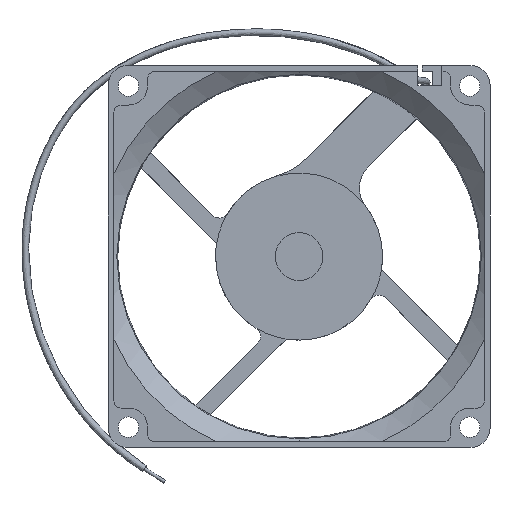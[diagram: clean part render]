
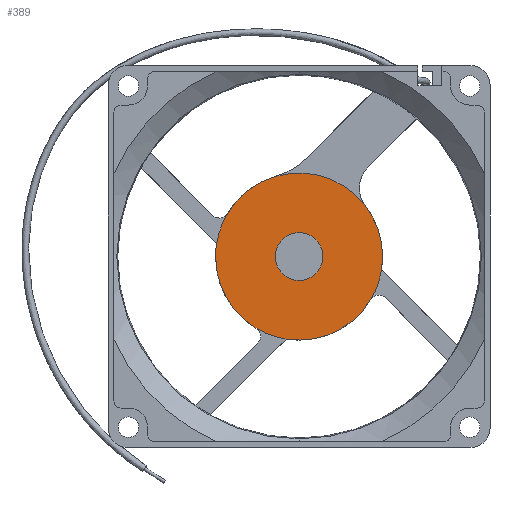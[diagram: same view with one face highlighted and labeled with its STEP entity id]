
A CAD part, front view. The second image highlights one B-rep face of the part: STEP entity #389.
In plain terms, the highlighted planar face has unit normal (0, -1, 0).
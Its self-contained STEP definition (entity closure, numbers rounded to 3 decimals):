
#94 = DIRECTION ( 'NONE',  ( 0., 0., -1. ) ) ;
#133 = ORIENTED_EDGE ( 'NONE', *, *, #10852, .T. ) ;
#229 = DIRECTION ( 'NONE',  ( 0., 1., 0. ) ) ;
#372 = CARTESIAN_POINT ( 'NONE',  ( 0., 21.2, -5. ) ) ;
#389 = ADVANCED_FACE ( 'NONE', ( #7597, #10057 ), #8031, .T. ) ;
#685 = EDGE_CURVE ( 'NONE', #10658, #7400, #1254, .T. ) ;
#914 = AXIS2_PLACEMENT_3D ( 'NONE', #2902, #9325, #3811 ) ;
#1029 = EDGE_CURVE ( 'NONE', #3860, #10677, #5431, .T. ) ;
#1131 = CARTESIAN_POINT ( 'NONE',  ( -4.888, 21.2, 16.803 ) ) ;
#1149 = AXIS2_PLACEMENT_3D ( 'NONE', #7103, #3460, #9894 ) ;
#1237 = CIRCLE ( 'NONE', #3075, 17.5 ) ;
#1254 = CIRCLE ( 'NONE', #914, 17.5 ) ;
#1712 = VERTEX_POINT ( 'NONE', #2326 ) ;
#1747 = VERTEX_POINT ( 'NONE', #2450 ) ;
#1751 = EDGE_CURVE ( 'NONE', #11955, #2664, #7567, .T. ) ;
#1814 = CARTESIAN_POINT ( 'NONE',  ( 0., 21.2, 0. ) ) ;
#1829 = CARTESIAN_POINT ( 'NONE',  ( 0., 21.2, 0. ) ) ;
#1830 = AXIS2_PLACEMENT_3D ( 'NONE', #2040, #8487, #2987 ) ;
#2040 = CARTESIAN_POINT ( 'NONE',  ( 0., 21.2, 0. ) ) ;
#2313 = ORIENTED_EDGE ( 'NONE', *, *, #10320, .T. ) ;
#2326 = CARTESIAN_POINT ( 'NONE',  ( -2.739, 21.2, -17.284 ) ) ;
#2388 = EDGE_CURVE ( 'NONE', #11955, #7400, #10589, .T. ) ;
#2450 = CARTESIAN_POINT ( 'NONE',  ( 14.985, 21.2, -9.039 ) ) ;
#2558 = ORIENTED_EDGE ( 'NONE', *, *, #9612, .T. ) ;
#2664 = VERTEX_POINT ( 'NONE', #10978 ) ;
#2706 = DIRECTION ( 'NONE',  ( 0., -1., 0. ) ) ;
#2767 = DIRECTION ( 'NONE',  ( 0., 0., -1. ) ) ;
#2776 = DIRECTION ( 'NONE',  ( 0., 0., 1. ) ) ;
#2902 = CARTESIAN_POINT ( 'NONE',  ( 0., 21.2, 0. ) ) ;
#2920 = CARTESIAN_POINT ( 'NONE',  ( 0., 21.2, 0. ) ) ;
#2987 = DIRECTION ( 'NONE',  ( 0., 0., -1. ) ) ;
#3028 = VERTEX_POINT ( 'NONE', #7176 ) ;
#3075 = AXIS2_PLACEMENT_3D ( 'NONE', #5761, #229, #6680 ) ;
#3280 = AXIS2_PLACEMENT_3D ( 'NONE', #1829, #8269, #2776 ) ;
#3460 = DIRECTION ( 'NONE',  ( 0., -1., 0. ) ) ;
#3586 = CIRCLE ( 'NONE', #11853, 17.5 ) ;
#3660 = DIRECTION ( 'NONE',  ( 0., -1., 0. ) ) ;
#3683 = ORIENTED_EDGE ( 'NONE', *, *, #685, .F. ) ;
#3811 = DIRECTION ( 'NONE',  ( -1., 0., 0. ) ) ;
#3834 = DIRECTION ( 'NONE',  ( -1., 0., 0. ) ) ;
#3860 = VERTEX_POINT ( 'NONE', #9572 ) ;
#4309 = CARTESIAN_POINT ( 'NONE',  ( -17.5, 21.2, 0. ) ) ;
#4565 = VERTEX_POINT ( 'NONE', #372 ) ;
#4604 = AXIS2_PLACEMENT_3D ( 'NONE', #11125, #5627, #94 ) ;
#4756 = CARTESIAN_POINT ( 'NONE',  ( 0., 21.2, 0. ) ) ;
#4783 = EDGE_CURVE ( 'NONE', #1747, #1712, #11029, .T. ) ;
#4844 = CARTESIAN_POINT ( 'NONE',  ( 13.86, 21.2, 10.685 ) ) ;
#5213 = CARTESIAN_POINT ( 'NONE',  ( 0., 21.2, 0. ) ) ;
#5431 = CIRCLE ( 'NONE', #10793, 17.5 ) ;
#5627 = DIRECTION ( 'NONE',  ( 0., 1., 0. ) ) ;
#5683 = DIRECTION ( 'NONE',  ( 0., 0., -1. ) ) ;
#5761 = CARTESIAN_POINT ( 'NONE',  ( 0., 21.2, 0. ) ) ;
#6144 = DIRECTION ( 'NONE',  ( 0., 0., 1. ) ) ;
#6680 = DIRECTION ( 'NONE',  ( -1., 0., 0. ) ) ;
#7017 = CIRCLE ( 'NONE', #10549, 17.5 ) ;
#7103 = CARTESIAN_POINT ( 'NONE',  ( -17.71, 21.2, 17.71 ) ) ;
#7176 = CARTESIAN_POINT ( 'NONE',  ( -17.284, 21.2, 2.739 ) ) ;
#7285 = CIRCLE ( 'NONE', #9645, 5. ) ;
#7400 = VERTEX_POINT ( 'NONE', #1131 ) ;
#7567 = CIRCLE ( 'NONE', #9404, 17.5 ) ;
#7597 = FACE_BOUND ( 'NONE', #8570, .T. ) ;
#7710 = AXIS2_PLACEMENT_3D ( 'NONE', #8212, #2706, #9126 ) ;
#7893 = ORIENTED_EDGE ( 'NONE', *, *, #2388, .T. ) ;
#8031 = PLANE ( 'NONE',  #1149 ) ;
#8212 = CARTESIAN_POINT ( 'NONE',  ( 0., 21.2, 0. ) ) ;
#8257 = DIRECTION ( 'NONE',  ( 0., -1., 0. ) ) ;
#8269 = DIRECTION ( 'NONE',  ( 0., 1., 0. ) ) ;
#8487 = DIRECTION ( 'NONE',  ( 0., -1., 0. ) ) ;
#8570 = EDGE_LOOP ( 'NONE', ( #11502, #133 ) ) ;
#8598 = CARTESIAN_POINT ( 'NONE',  ( 0., 21.2, 5. ) ) ;
#8623 = ORIENTED_EDGE ( 'NONE', *, *, #8694, .T. ) ;
#8694 = EDGE_CURVE ( 'NONE', #10658, #3028, #3586, .T. ) ;
#8864 = CIRCLE ( 'NONE', #1830, 17.5 ) ;
#8907 = CARTESIAN_POINT ( 'NONE',  ( -14.985, 21.2, 9.039 ) ) ;
#9095 = EDGE_CURVE ( 'NONE', #11589, #4565, #9911, .T. ) ;
#9126 = DIRECTION ( 'NONE',  ( 0., 0., -1. ) ) ;
#9172 = CARTESIAN_POINT ( 'NONE',  ( 0., 21.2, 0. ) ) ;
#9325 = DIRECTION ( 'NONE',  ( 0., 1., 0. ) ) ;
#9351 = DIRECTION ( 'NONE',  ( 0., 1., 0. ) ) ;
#9371 = ORIENTED_EDGE ( 'NONE', *, *, #10339, .F. ) ;
#9404 = AXIS2_PLACEMENT_3D ( 'NONE', #5213, #11661, #6144 ) ;
#9556 = ORIENTED_EDGE ( 'NONE', *, *, #1751, .F. ) ;
#9572 = CARTESIAN_POINT ( 'NONE',  ( -9.039, 21.2, -14.985 ) ) ;
#9612 = EDGE_CURVE ( 'NONE', #3860, #1712, #7017, .T. ) ;
#9645 = AXIS2_PLACEMENT_3D ( 'NONE', #4756, #11202, #5683 ) ;
#9894 = DIRECTION ( 'NONE',  ( 0., 0., -1. ) ) ;
#9911 = CIRCLE ( 'NONE', #4604, 5. ) ;
#10057 = FACE_OUTER_BOUND ( 'NONE', #11402, .T. ) ;
#10107 = DIRECTION ( 'NONE',  ( 1., 0., 0. ) ) ;
#10320 = EDGE_CURVE ( 'NONE', #1747, #2664, #8864, .T. ) ;
#10339 = EDGE_CURVE ( 'NONE', #10677, #3028, #1237, .T. ) ;
#10549 = AXIS2_PLACEMENT_3D ( 'NONE', #1814, #8257, #2767 ) ;
#10589 = CIRCLE ( 'NONE', #7710, 17.5 ) ;
#10658 = VERTEX_POINT ( 'NONE', #8907 ) ;
#10677 = VERTEX_POINT ( 'NONE', #4309 ) ;
#10793 = AXIS2_PLACEMENT_3D ( 'NONE', #2920, #9351, #3834 ) ;
#10852 = EDGE_CURVE ( 'NONE', #4565, #11589, #7285, .T. ) ;
#10978 = CARTESIAN_POINT ( 'NONE',  ( 17.284, 21.2, -2.739 ) ) ;
#11029 = CIRCLE ( 'NONE', #3280, 17.5 ) ;
#11125 = CARTESIAN_POINT ( 'NONE',  ( 0., 21.2, 0. ) ) ;
#11202 = DIRECTION ( 'NONE',  ( 0., 1., 0. ) ) ;
#11343 = ORIENTED_EDGE ( 'NONE', *, *, #1029, .F. ) ;
#11402 = EDGE_LOOP ( 'NONE', ( #11902, #2313, #9556, #7893, #3683, #8623, #9371, #11343, #2558 ) ) ;
#11502 = ORIENTED_EDGE ( 'NONE', *, *, #9095, .T. ) ;
#11589 = VERTEX_POINT ( 'NONE', #8598 ) ;
#11661 = DIRECTION ( 'NONE',  ( 0., 1., 0. ) ) ;
#11853 = AXIS2_PLACEMENT_3D ( 'NONE', #9172, #3660, #10107 ) ;
#11902 = ORIENTED_EDGE ( 'NONE', *, *, #4783, .F. ) ;
#11955 = VERTEX_POINT ( 'NONE', #4844 ) ;
